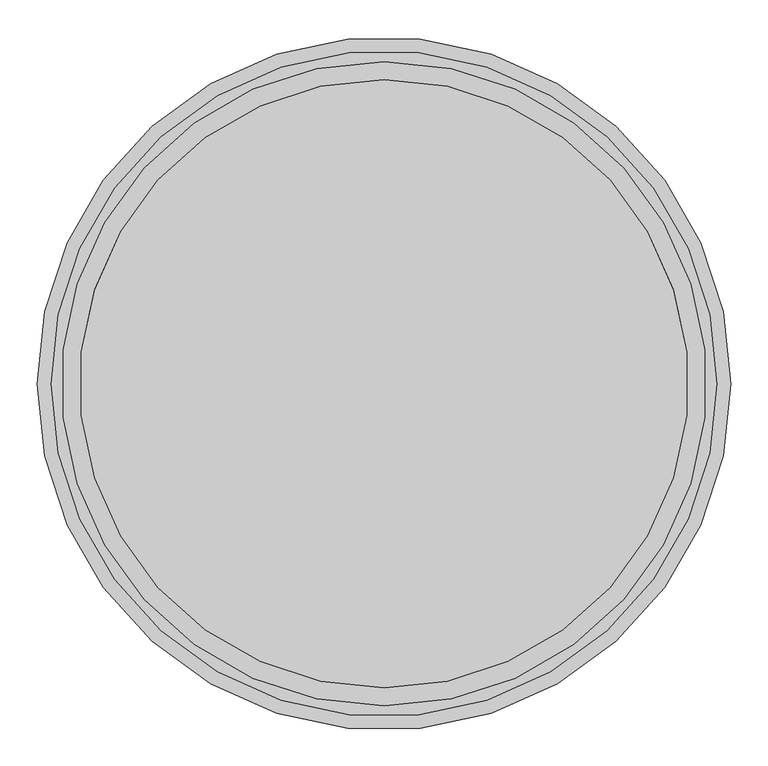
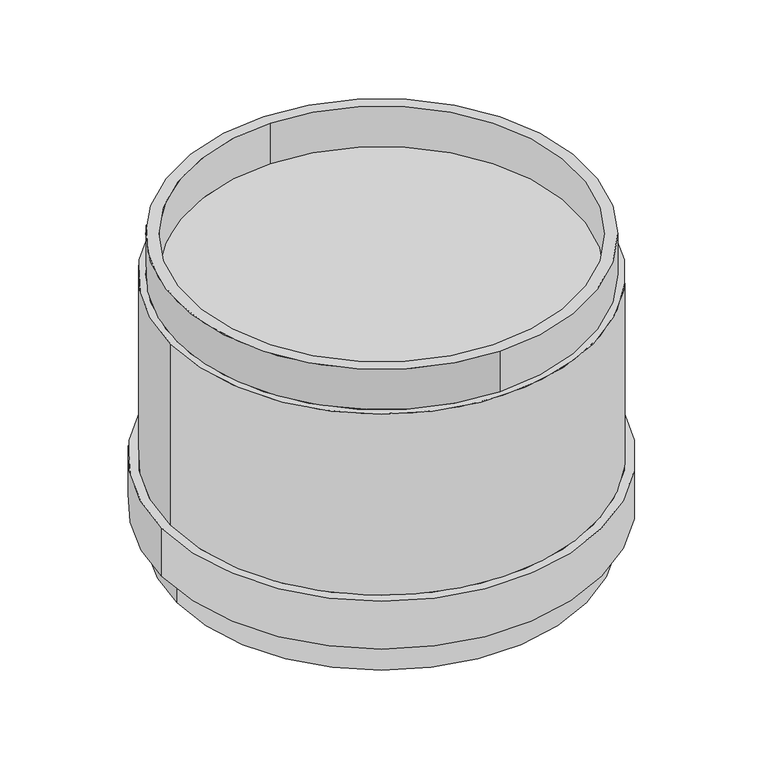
"""IFC4 building model written with IfcOpenShell, lengths in millimetres: valve geometry, Pipelife - Studnia PRO 800 - Kineta studni ślepa : 800 ślepa."""

import ifcopenshell
import ifcopenshell.guid

model = None  # the IFC model being written
_history = None  # IfcOwnerHistory: only IFC2X3 demands one
_inside = {}  # id of a spatial element -> (the spatial element, [elements in it])
_under = {}  # id of a project, library or spatial element -> (it, [spatial elements below it])
_declared = {}  # id of a project -> (the project, [libraries it declares])
_typed = {}  # id of a type object -> (the type object, [elements of that type])
_made_of = {}  # id of a material, layer set ... -> (it, [elements and type objects made of it])


def new_model(schema):
    """Start an empty IFC model of exactly this schema.

    Asked for "IFC4X3", IfcOpenShell would pick the latest addendum, in which some entities
    have other attributes; the version numbers below select the first issue.
    IFC2X3 requires an IfcOwnerHistory on every rooted entity: one is made here for all.
    """
    global model, _history
    if schema == "IFC4X3":
        model = ifcopenshell.file(schema_version=(4, 3, 0, 0))
    else:
        model = ifcopenshell.file(schema=schema)
    _inside.clear()
    _under.clear()
    _declared.clear()
    _typed.clear()
    _made_of.clear()
    _history = None
    if model.schema == "IFC2X3":
        org = make("IfcOrganization", Name="unknown")
        user = make(
            "IfcPersonAndOrganization",
            ThePerson=make("IfcPerson", FamilyName="unknown"),
            TheOrganization=org,
        )
        app = make(
            "IfcApplication",
            ApplicationDeveloper=org,
            Version="unknown",
            ApplicationFullName="unknown",
            ApplicationIdentifier="unknown",
        )
        _history = make(
            "IfcOwnerHistory",
            OwningUser=user,
            OwningApplication=app,
            ChangeAction="ADDED",
            CreationDate=0,
        )
    return model


def make(cls, **values):
    """One entity of the class cls with the attributes given. An attribute that is None is left unset."""
    return model.create_entity(
        cls, **{name: value for name, value in values.items() if value is not None}
    )


def rooted(cls, **values):
    """An entity with a GlobalId (a new one), such as an element, a storey or a relation."""
    return make(cls, GlobalId=ifcopenshell.guid.new(), OwnerHistory=_history, **values)


def si_unit(unit_type, name, prefix=None):
    """IfcSIUnit, for example si_unit("LENGTHUNIT", "METRE", prefix="MILLI")."""
    return make("IfcSIUnit", UnitType=unit_type, Prefix=prefix, Name=name)


def assignment(units):
    """IfcUnitAssignment: the units of a project."""
    return None if units is None else make("IfcUnitAssignment", Units=units)


def point(xyz):
    """IfcCartesianPoint."""
    return None if xyz is None else make("IfcCartesianPoint", Coordinates=xyz)


def direction(xyz):
    """IfcDirection."""
    return None if xyz is None else make("IfcDirection", DirectionRatios=xyz)


def frame(location, z_axis=None, x_axis=None):
    """IfcAxis2Placement3D, a coordinate frame: its origin and axes. An axis left out is left unset."""
    return make(
        "IfcAxis2Placement3D",
        Location=point(location),
        Axis=direction(z_axis),
        RefDirection=direction(x_axis),
    )


def frame_2d(location, x_axis=None):
    """IfcAxis2Placement2D, a coordinate frame in the plane: its origin and x axis."""
    return make(
        "IfcAxis2Placement2D", Location=point(location), RefDirection=direction(x_axis)
    )


def origin():
    """The frame at (0, 0, 0) with its axes left unset."""
    return frame((0.0, 0.0, 0.0))


def origin_2d():
    """The frame at (0, 0) in the plane with its x axis left unset."""
    return frame_2d((0.0, 0.0))


def place(relative_to, where):
    """IfcLocalPlacement: puts the frame where relative to a parent placement (None: the world)."""
    return make(
        "IfcLocalPlacement", PlacementRelTo=relative_to, RelativePlacement=where
    )


def context(
    kind, dimensions, precision=None, world=None, true_north=None, identifier=None
):
    """IfcGeometricRepresentationContext, for example the 3D "Model" context."""
    return make(
        "IfcGeometricRepresentationContext",
        ContextIdentifier=identifier,
        ContextType=kind,
        CoordinateSpaceDimension=dimensions,
        Precision=precision,
        WorldCoordinateSystem=world,
        TrueNorth=true_north,
    )


def project(units=None, contexts=None):
    """IfcProject with its units and contexts."""
    return rooted(
        "IfcProject",
        Name="project",
        RepresentationContexts=contexts,
        UnitsInContext=assignment(units),
    )


def spatial(cls, under=None, at=None, **own):
    """A site, building, storey or space (cls), placed at a placement, below another one or the project."""
    s = rooted(cls, ObjectPlacement=at, **own)
    if under is not None:
        _under.setdefault(under.id(), (under, []))[1].append(s)
    return s


def polyline(points):
    """IfcPolyline through the points."""
    return make("IfcPolyline", Points=[point(p) for p in points])


def circle_curve(where, radius):
    """IfcCircle in the frame where."""
    return make("IfcCircle", Position=where, Radius=radius)


def trimmed(basis, trim1, trim2, sense, master):
    """IfcTrimmedCurve: the piece of a basis curve between two trims."""
    return make(
        "IfcTrimmedCurve",
        BasisCurve=basis,
        Trim1=trim1,
        Trim2=trim2,
        SenseAgreement=sense,
        MasterRepresentation=master,
    )


def segment(curve, same_sense, transition):
    """IfcCompositeCurveSegment."""
    return make(
        "IfcCompositeCurveSegment",
        Transition=transition,
        SameSense=same_sense,
        ParentCurve=curve,
    )


def composite_curve(segments, self_intersect=None):
    """IfcCompositeCurve: segments joined end to end."""
    return make("IfcCompositeCurve", Segments=segments, SelfIntersect=self_intersect)


def outline(outer, holes=None, kind="AREA"):
    """IfcArbitraryClosedProfileDef: a profile drawn as a closed curve; with holes, ...WithVoids."""
    if holes is None:
        return make("IfcArbitraryClosedProfileDef", ProfileType=kind, OuterCurve=outer)
    return make(
        "IfcArbitraryProfileDefWithVoids",
        ProfileType=kind,
        OuterCurve=outer,
        InnerCurves=holes,
    )


def extrude(swept, where, along, depth):
    """IfcExtrudedAreaSolid: the profile swept, set in the frame where, extruded along a direction by depth."""
    return make(
        "IfcExtrudedAreaSolid",
        SweptArea=swept,
        Position=where,
        ExtrudedDirection=direction(along),
        Depth=depth,
    )


def shape(context_of_items, identifier, shape_type, items):
    """IfcShapeRepresentation: the items that make up one representation, for example the "Body"."""
    return make(
        "IfcShapeRepresentation",
        ContextOfItems=context_of_items,
        RepresentationIdentifier=identifier,
        RepresentationType=shape_type,
        Items=items,
    )


def source(mapping_origin, context_of_items, identifier, shape_type, items):
    """IfcRepresentationMap: a shape defined once, which mapped items show again and again."""
    return make(
        "IfcRepresentationMap",
        MappingOrigin=mapping_origin,
        MappedRepresentation=shape(context_of_items, identifier, shape_type, items),
    )


def transform(
    local_origin,
    x_axis=None,
    y_axis=None,
    z_axis=None,
    scale=None,
    scale2=None,
    scale3=None,
    uniform=True,
):
    """IfcCartesianTransformationOperator3D, or its non-uniform kind. x_axis, y_axis, z_axis: its Axis1, 2, 3."""
    if uniform:
        return make(
            "IfcCartesianTransformationOperator3D",
            Axis1=direction(x_axis),
            Axis2=direction(y_axis),
            LocalOrigin=point(local_origin),
            Scale=scale,
            Axis3=direction(z_axis),
        )
    return make(
        "IfcCartesianTransformationOperator3DnonUniform",
        Axis1=direction(x_axis),
        Axis2=direction(y_axis),
        LocalOrigin=point(local_origin),
        Scale=scale,
        Axis3=direction(z_axis),
        Scale2=scale2,
        Scale3=scale3,
    )


def mapped(mapping_source, mapping_target):
    """IfcMappedItem: shows the shape of a source again, moved by a transform."""
    return make(
        "IfcMappedItem", MappingSource=mapping_source, MappingTarget=mapping_target
    )


def made_of(thing, what):
    """Note that an element or type object is made of a material, layer set ...; save() writes the relation."""
    if what is not None:
        _made_of.setdefault(what.id(), (what, []))[1].append(thing)
    return thing


def element(
    cls,
    number,
    at=None,
    inside=None,
    cuts=None,
    type_object=None,
    material=None,
    context=None,
    identifier="Body",
    shape_type=None,
    held_by="IfcProductDefinitionShape",
    body=None,
    shapes=None,
    **own,
):
    """One element of the class cls, such as IfcWall. Its Tag is "e" and its number.

    at: its placement. inside: the storey or other place that contains it. cuts: it is an
    opening in that element (IfcRelVoidsElement). A single representation is given by context,
    identifier, shape_type and body (its items); several are given by shapes. held_by: the class
    of the entity that holds the representations. save() writes the other relations.
    """
    e = rooted(cls, Tag="e%d" % number, ObjectPlacement=at, **own)
    if body is not None:
        shapes = [shape(context, identifier, shape_type, body)]
    if shapes is not None:
        e.Representation = make(held_by, Representations=shapes)
    if inside is not None:
        _inside.setdefault(inside.id(), (inside, []))[1].append(e)
    if cuts is not None:
        rooted(
            "IfcRelVoidsElement", RelatingBuildingElement=cuts, RelatedOpeningElement=e
        )
    if type_object is not None:
        _typed.setdefault(type_object.id(), (type_object, []))[1].append(e)
    return made_of(e, material)


def aggregate(whole, parts):
    """IfcRelAggregates: a whole, such as a stair, and the parts it consists of."""
    return rooted("IfcRelAggregates", RelatingObject=whole, RelatedObjects=parts)


def save(model, path):
    """Write the relations noted so far, then the file.

    IfcRelAggregates (storeys below a building ...), IfcRelContainedInSpatialStructure (elements
    in a storey), IfcRelDefinesByType, IfcRelAssociatesMaterial and IfcRelDeclares: one each for
    every whole, place, type object, material and project.
    """
    for whole, parts in _under.values():
        aggregate(whole, parts)
    for where, things in _inside.values():
        rooted(
            "IfcRelContainedInSpatialStructure",
            RelatedElements=things,
            RelatingStructure=where,
        )
    for kind, things in _typed.values():
        rooted("IfcRelDefinesByType", RelatedObjects=things, RelatingType=kind)
    for what, things in _made_of.values():
        rooted("IfcRelAssociatesMaterial", RelatedObjects=things, RelatingMaterial=what)
    for by, libraries in _declared.values():
        rooted("IfcRelDeclares", RelatingContext=by, RelatedDefinitions=libraries)
    model.write(path)


def plane_surface(at):
    """IfcPlane: the flat surface through the origin of the frame at, square to its z axis."""
    return make("IfcPlane", Position=at)


def cylinder_surface(at, radius):
    """IfcCylindricalSurface: all points at the distance radius from the z axis of the frame at."""
    return make("IfcCylindricalSurface", Position=at, Radius=radius)


def revolved_surface(curve, axis_point, axis_direction):
    """IfcSurfaceOfRevolution: the curve turned about the line through axis_point along axis_direction."""
    return make(
        "IfcSurfaceOfRevolution",
        SweptCurve=make("IfcArbitraryOpenProfileDef", ProfileType="CURVE", Curve=curve),
        AxisPosition=make("IfcAxis1Placement", Location=point(axis_point), Axis=direction(axis_direction)),
    )


def advanced_brep(points, edges, surfaces, faces):
    """IfcAdvancedBrep: a solid bounded by faces that lie on surfaces and meet in shared edges.

    An edge is (start, end): straight between two places in points (the first is 0);
    or (start, end, curve); or (start, end, curve, False) where it runs against its curve.
    A face is (place in surfaces, loops), or (place, loops, False) where it looks against
    its surface's normal. A loop lists edges by number (the first is 1), with a minus sign
    where the edge is run from its end to its start. The first loop is the outer one.
    """
    corners = [point(p) for p in points]
    vertices = [make("IfcVertexPoint", VertexGeometry=c) for c in corners]
    made = []
    for start, end, *more in edges:
        made.append(
            make(
                "IfcEdgeCurve",
                EdgeStart=vertices[start],
                EdgeEnd=vertices[end],
                EdgeGeometry=more[0] if more else make("IfcPolyline", Points=[corners[start], corners[end]]),
                SameSense=more[1] if len(more) > 1 else True,
            )
        )
    hull = []
    for where, loops, *sense in faces:
        bounds = []
        for j, loop in enumerate(loops):
            ring = [make("IfcOrientedEdge", EdgeElement=made[abs(k) - 1], Orientation=k > 0) for k in loop]
            bounds.append(
                make(
                    "IfcFaceOuterBound" if j == 0 else "IfcFaceBound",
                    Bound=make("IfcEdgeLoop", EdgeList=ring),
                    Orientation=True,
                )
            )
        hull.append(make("IfcAdvancedFace", Bounds=bounds, FaceSurface=surfaces[where], SameSense=sense[0] if sense else True))
    return make("IfcAdvancedBrep", Outer=make("IfcClosedShell", CfsFaces=hull))


def valve_1048b207(model_context):
    return source(origin(), model_context, "Body", "SolidModel", [
        advanced_brep(
        [(465.0, 0.0, -309.5), (-465.0, 0.0, -309.5), (465.0, 0.0, -202.5), (-465.0, 0.0, -202.5), (446.5, 0.0, -202.5), (-446.5, 0.0, -202.5), (446.5, 0.0, 202.5), (-446.5, 0.0, 202.5), (0.0, -432.5, 202.5), (0.0, 432.5, 202.5), (0.0, -408.0, 202.5), (0.0, 408.0, 202.5), (0.0, 432.5, 292.5), (0.0, -432.5, 292.5), (0.0, 408.0, 292.5), (0.0, -408.0, 292.5)],
        [
            (0, 1, circle_curve(frame((0.0, 0.0, -309.5), z_axis=(0.0, 0.0, -1.0), x_axis=(-1.0, 0.0, 0.0)), 465.0)),
            (1, 0, circle_curve(frame((0.0, 0.0, -309.5), z_axis=(0.0, 0.0, -1.0), x_axis=(-1.0, 0.0, 0.0)), 465.0)),
            (2, 3, circle_curve(frame((0.0, 0.0, -202.5), z_axis=(0.0, 0.0, 1.0), x_axis=(-1.0, 0.0, 0.0)), 465.0)),
            (3, 2, circle_curve(frame((0.0, 0.0, -202.5), z_axis=(0.0, 0.0, 1.0), x_axis=(-1.0, 0.0, 0.0)), 465.0)),
            (4, 5, circle_curve(frame((0.0, 0.0, -202.5), z_axis=(0.0, 0.0, -1.0), x_axis=(-1.0, 0.0, 0.0)), 446.5)),
            (5, 4, circle_curve(frame((0.0, 0.0, -202.5), z_axis=(0.0, 0.0, -1.0), x_axis=(-1.0, 0.0, 0.0)), 446.5)),
            (0, 2),
            (3, 1),
            (6, 7, circle_curve(frame((0.0, 0.0, 202.5), z_axis=(0.0, 0.0, 1.0), x_axis=(-1.0, 0.0, 0.0)), 446.5)),
            (7, 6, circle_curve(frame((0.0, 0.0, 202.5), z_axis=(0.0, 0.0, 1.0), x_axis=(-1.0, 0.0, 0.0)), 446.5)),
            (8, 9, circle_curve(frame((0.0, 0.0, 202.5), z_axis=(0.0, 0.0, -1.0), x_axis=(0.0, -1.0, 0.0)), 432.5)),
            (9, 8, circle_curve(frame((0.0, 0.0, 202.5), z_axis=(0.0, 0.0, -1.0), x_axis=(0.0, -1.0, 0.0)), 432.5)),
            (10, 11, circle_curve(frame((0.0, 0.0, 202.5), z_axis=(0.0, 0.0, 1.0), x_axis=(0.0, -1.0, 0.0)), 408.0)),
            (11, 10, circle_curve(frame((0.0, 0.0, 202.5), z_axis=(0.0, 0.0, 1.0), x_axis=(0.0, -1.0, 0.0)), 408.0)),
            (7, 5),
            (4, 6),
            (12, 13, circle_curve(frame((0.0, 0.0, 292.5), z_axis=(0.0, 0.0, 1.0), x_axis=(0.0, -1.0, 0.0)), 432.5)),
            (13, 12, circle_curve(frame((0.0, 0.0, 292.5), z_axis=(0.0, 0.0, 1.0), x_axis=(0.0, -1.0, 0.0)), 432.5)),
            (14, 15, circle_curve(frame((0.0, 0.0, 292.5), z_axis=(0.0, 0.0, -1.0), x_axis=(0.0, -1.0, 0.0)), 408.0)),
            (15, 14, circle_curve(frame((0.0, 0.0, 292.5), z_axis=(0.0, 0.0, -1.0), x_axis=(0.0, -1.0, 0.0)), 408.0)),
            (12, 9),
            (8, 13),
            (14, 11),
            (10, 15),
        ],
        [
            plane_surface(frame((0.0, 0.0, -309.5), z_axis=(0.0, 0.0, -1.0), x_axis=(0.0, -1.0, 0.0))),
            plane_surface(frame((0.0, 0.0, -202.5), z_axis=(0.0, 0.0, 1.0), x_axis=(0.0, -1.0, 0.0))),
            cylinder_surface(frame((0.0, 0.0, -309.5), z_axis=(0.0, 0.0, -1.0), x_axis=(-1.0, 0.0, 0.0)), 465.0),
            plane_surface(frame((0.0, 0.0, 202.5), z_axis=(0.0, 0.0, 1.0), x_axis=(0.0, -1.0, 0.0))),
            cylinder_surface(frame((0.0, 0.0, -202.5), z_axis=(0.0, 0.0, -1.0), x_axis=(-1.0, 0.0, 0.0)), 446.5),
            plane_surface(frame((0.0, 0.0, 292.5), z_axis=(0.0, 0.0, 1.0), x_axis=(0.0, -1.0, 0.0))),
            cylinder_surface(frame((0.0, 0.0, 292.5), z_axis=(0.0, 0.0, 1.0), x_axis=(0.0, -1.0, 0.0)), 432.5),
            revolved_surface(polyline([(0.0, -408.0, 202.5), (0.0, -408.0, 292.5)]), (0.0, 0.0, 292.5), (0.0, 0.0, -1.0)),
        ],
        [
            (0, [[1, 2]]),
            (1, [[3, 4], [5, 6]]),
            (2, [[-1, 7, -4, 8]]),
            (2, [[-2, -8, -3, -7]]),
            (3, [[9, 10], [11, 12]]),
            (3, [[13, 14]]),
            (4, [[-10, 15, -5, 16]]),
            (4, [[-9, -16, -6, -15]]),
            (5, [[17, 18], [19, 20]]),
            (6, [[-17, 21, -11, 22]]),
            (6, [[-18, -22, -12, -21]]),
            (7, [[-19, 23, -13, 24]]),
            (7, [[-20, -24, -14, -23]]),
        ],
    ),
        extrude(outline(composite_curve([segment(trimmed(circle_curve(origin_2d(), 433.0), [point((433.0, 0.0))], [point((-433.0, 0.0))], False, "CARTESIAN"), True, "CONTINUOUS"), segment(trimmed(circle_curve(origin_2d(), 433.0), [point((-433.0, 0.0))], [point((433.0, 0.0))], False, "CARTESIAN"), True, "CONTINUOUS")], self_intersect=False)), frame((0.0, 0.0, -379.5), z_axis=(0.0, 0.0, 1.0), x_axis=(1.0, 0.0, 0.0)), (0.0, 0.0, 1.0), 70.0),
    ])


if __name__ == "__main__":
    model = new_model("IFC4")
    model_context = context("Model", 3, world=origin())
    ifc_project = project(units=[si_unit("LENGTHUNIT", "METRE", prefix="MILLI")], contexts=[model_context])
    site = spatial("IfcSite", under=ifc_project)
    building = spatial("IfcBuilding", under=site)
    placement = place(None, origin())
    valve_shape = valve_1048b207(model_context)
    element("IfcValve", 1, ObjectType="Pipelife - Studnia PRO 800 - Kineta studni ślepa : 800 ślepa", at=placement, inside=building, context=model_context, shape_type="MappedRepresentation", body=[
        mapped(valve_shape, transform((0.0, 0.0, 0.0), x_axis=(1.0, 0.0, 0.0), y_axis=(0.0, 1.0, 0.0), z_axis=(0.0, 0.0, 1.0))),
    ])
    save(model, "model.ifc")
